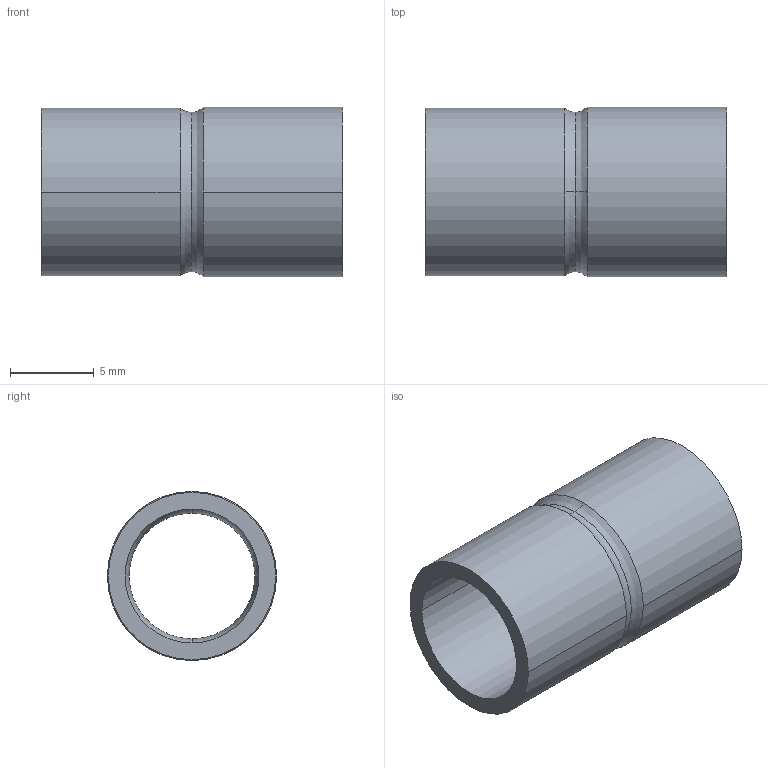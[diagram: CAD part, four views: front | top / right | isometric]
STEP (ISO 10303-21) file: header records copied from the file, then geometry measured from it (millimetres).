
FILE_DESCRIPTION((''),'2;1');
FILE_NAME('G:\Technics\CAD\Bauteile\Serie 15243\15243108.stp','2005-10-21T12:49:28',('boden'),(''),'Autodesk Inventor 8','Autodesk Inventor 8','');
FILE_SCHEMA(('AUTOMOTIVE_DESIGN { 1 0 10303 214 1 1 1 1 }'));
Length unit declared in the file: millimetre
Products named in the file (1): 15243108
Bounding box: 18 x 10.11 x 10.11 mm (x, y, z)
Volume: 513.3 mm3; surface area: 1083.8 mm2
Topology: 1 solids, 1 shells, 18 faces, 44 edges, 28 vertices
Faces by surface type: cylinder 8, torus 4, bspline 4, plane 2
Entity records: 739 total; most frequent: CARTESIAN_POINT 267, DIRECTION 110, ORIENTED_EDGE 88, AXIS2_PLACEMENT_3D 51, EDGE_CURVE 44, CIRCLE 36, VERTEX_POINT 28, EDGE_LOOP 20
